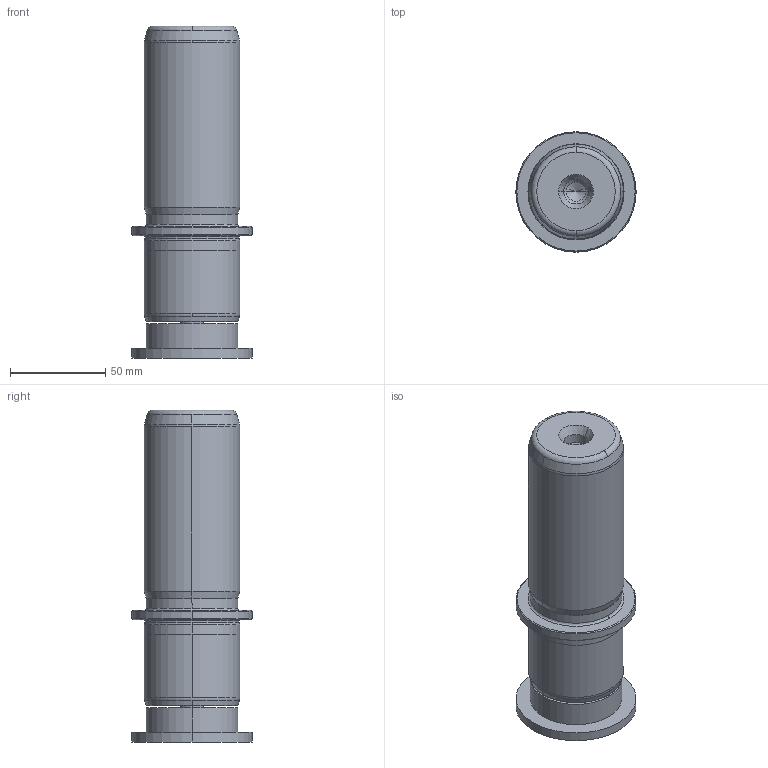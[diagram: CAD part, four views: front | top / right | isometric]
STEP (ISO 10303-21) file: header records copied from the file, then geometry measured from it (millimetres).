
FILE_DESCRIPTION((''),'2;1');
FILE_NAME('P22_050_110.stp','2009-11-02T10:45:30',(''),(''),'Mechanical Desktop 2009','Mechanical Desktop 2009',', , ');
FILE_SCHEMA(('CONFIG_CONTROL_DESIGN'));
Length unit declared in the file: millimetre
Products named in the file (2): Product; blmdl1
Assembly tree (1 placements, depth 2):
  Product
    blmdl1
Bounding box: 63 x 63 x 174 mm (x, y, z)
Volume: 339748 mm3; surface area: 44995.3 mm2
Topology: 3 solids, 3 shells, 99 faces, 237 edges, 149 vertices
Faces by surface type: cylinder 32, cone 28, plane 19, torus 10, bspline 10
Entity records: 3419 total; most frequent: CARTESIAN_POINT 923, DIRECTION 570, ORIENTED_EDGE 466, AXIS2_PLACEMENT_3D 246, EDGE_CURVE 233, CIRCLE 155, VERTEX_POINT 149, EDGE_LOOP 110
